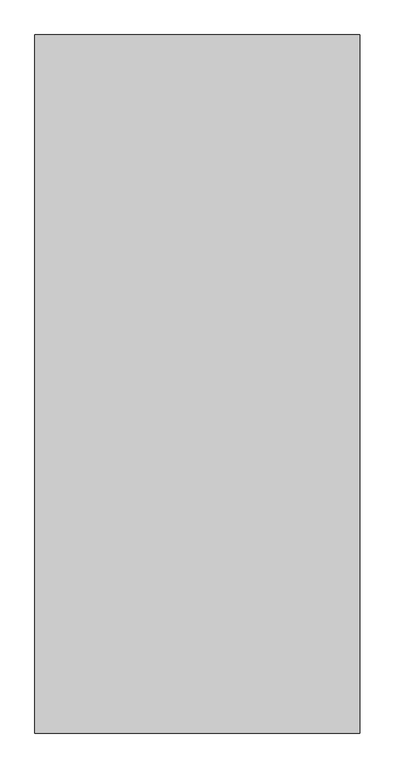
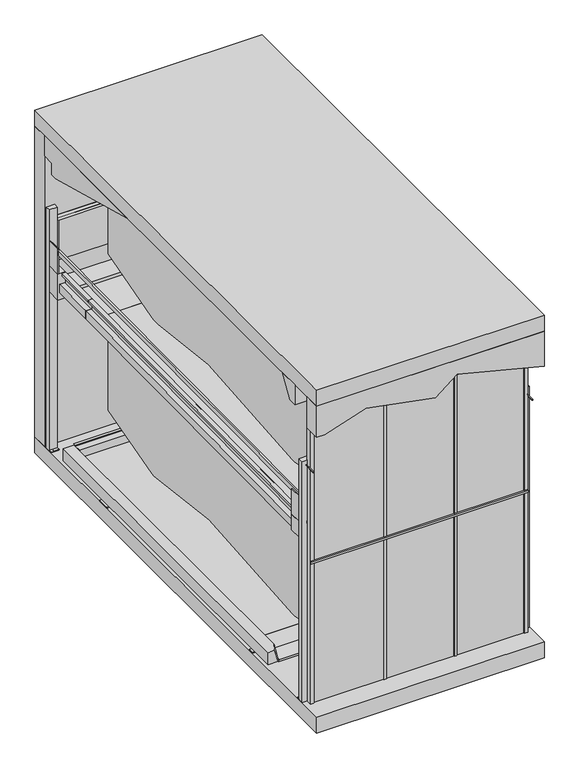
"""IFC4 building model written with IfcOpenShell, lengths in millimetres: proxy geometry, TrendVario 6200+ : TrendVario 6200+."""

import ifcopenshell
import ifcopenshell.guid

model = None  # the IFC model being written
_history = None  # IfcOwnerHistory: only IFC2X3 demands one
_inside = {}  # id of a spatial element -> (the spatial element, [elements in it])
_under = {}  # id of a project, library or spatial element -> (it, [spatial elements below it])
_declared = {}  # id of a project -> (the project, [libraries it declares])
_typed = {}  # id of a type object -> (the type object, [elements of that type])
_made_of = {}  # id of a material, layer set ... -> (it, [elements and type objects made of it])


def new_model(schema):
    """Start an empty IFC model of exactly this schema.

    Asked for "IFC4X3", IfcOpenShell would pick the latest addendum, in which some entities
    have other attributes; the version numbers below select the first issue.
    IFC2X3 requires an IfcOwnerHistory on every rooted entity: one is made here for all.
    """
    global model, _history
    if schema == "IFC4X3":
        model = ifcopenshell.file(schema_version=(4, 3, 0, 0))
    else:
        model = ifcopenshell.file(schema=schema)
    _inside.clear()
    _under.clear()
    _declared.clear()
    _typed.clear()
    _made_of.clear()
    _history = None
    if model.schema == "IFC2X3":
        org = make("IfcOrganization", Name="unknown")
        user = make(
            "IfcPersonAndOrganization",
            ThePerson=make("IfcPerson", FamilyName="unknown"),
            TheOrganization=org,
        )
        app = make(
            "IfcApplication",
            ApplicationDeveloper=org,
            Version="unknown",
            ApplicationFullName="unknown",
            ApplicationIdentifier="unknown",
        )
        _history = make(
            "IfcOwnerHistory",
            OwningUser=user,
            OwningApplication=app,
            ChangeAction="ADDED",
            CreationDate=0,
        )
    return model


def make(cls, **values):
    """One entity of the class cls with the attributes given. An attribute that is None is left unset."""
    return model.create_entity(
        cls, **{name: value for name, value in values.items() if value is not None}
    )


def rooted(cls, **values):
    """An entity with a GlobalId (a new one), such as an element, a storey or a relation."""
    return make(cls, GlobalId=ifcopenshell.guid.new(), OwnerHistory=_history, **values)


def si_unit(unit_type, name, prefix=None):
    """IfcSIUnit, for example si_unit("LENGTHUNIT", "METRE", prefix="MILLI")."""
    return make("IfcSIUnit", UnitType=unit_type, Prefix=prefix, Name=name)


def assignment(units):
    """IfcUnitAssignment: the units of a project."""
    return None if units is None else make("IfcUnitAssignment", Units=units)


def point(xyz):
    """IfcCartesianPoint."""
    return None if xyz is None else make("IfcCartesianPoint", Coordinates=xyz)


def direction(xyz):
    """IfcDirection."""
    return None if xyz is None else make("IfcDirection", DirectionRatios=xyz)


def frame(location, z_axis=None, x_axis=None):
    """IfcAxis2Placement3D, a coordinate frame: its origin and axes. An axis left out is left unset."""
    return make(
        "IfcAxis2Placement3D",
        Location=point(location),
        Axis=direction(z_axis),
        RefDirection=direction(x_axis),
    )


def frame_2d(location, x_axis=None):
    """IfcAxis2Placement2D, a coordinate frame in the plane: its origin and x axis."""
    return make(
        "IfcAxis2Placement2D", Location=point(location), RefDirection=direction(x_axis)
    )


def origin():
    """The frame at (0, 0, 0) with its axes left unset."""
    return frame((0.0, 0.0, 0.0))


def origin_with_axes():
    """The frame at (0, 0, 0) with the z axis (0, 0, 1) and the x axis (1, 0, 0) written out."""
    return frame((0.0, 0.0, 0.0), z_axis=(0.0, 0.0, 1.0), x_axis=(1.0, 0.0, 0.0))


def place(relative_to, where):
    """IfcLocalPlacement: puts the frame where relative to a parent placement (None: the world)."""
    return make(
        "IfcLocalPlacement", PlacementRelTo=relative_to, RelativePlacement=where
    )


def context(
    kind, dimensions, precision=None, world=None, true_north=None, identifier=None
):
    """IfcGeometricRepresentationContext, for example the 3D "Model" context."""
    return make(
        "IfcGeometricRepresentationContext",
        ContextIdentifier=identifier,
        ContextType=kind,
        CoordinateSpaceDimension=dimensions,
        Precision=precision,
        WorldCoordinateSystem=world,
        TrueNorth=true_north,
    )


def project(units=None, contexts=None):
    """IfcProject with its units and contexts."""
    return rooted(
        "IfcProject",
        Name="project",
        RepresentationContexts=contexts,
        UnitsInContext=assignment(units),
    )


def spatial(cls, under=None, at=None, **own):
    """A site, building, storey or space (cls), placed at a placement, below another one or the project."""
    s = rooted(cls, ObjectPlacement=at, **own)
    if under is not None:
        _under.setdefault(under.id(), (under, []))[1].append(s)
    return s


def polyline(points):
    """IfcPolyline through the points."""
    return make("IfcPolyline", Points=[point(p) for p in points])


def circle_curve(where, radius):
    """IfcCircle in the frame where."""
    return make("IfcCircle", Position=where, Radius=radius)


def trimmed(basis, trim1, trim2, sense, master):
    """IfcTrimmedCurve: the piece of a basis curve between two trims."""
    return make(
        "IfcTrimmedCurve",
        BasisCurve=basis,
        Trim1=trim1,
        Trim2=trim2,
        SenseAgreement=sense,
        MasterRepresentation=master,
    )


def segment(curve, same_sense, transition):
    """IfcCompositeCurveSegment."""
    return make(
        "IfcCompositeCurveSegment",
        Transition=transition,
        SameSense=same_sense,
        ParentCurve=curve,
    )


def composite_curve(segments, self_intersect=None):
    """IfcCompositeCurve: segments joined end to end."""
    return make("IfcCompositeCurve", Segments=segments, SelfIntersect=self_intersect)


def outline(outer, holes=None, kind="AREA"):
    """IfcArbitraryClosedProfileDef: a profile drawn as a closed curve; with holes, ...WithVoids."""
    if holes is None:
        return make("IfcArbitraryClosedProfileDef", ProfileType=kind, OuterCurve=outer)
    return make(
        "IfcArbitraryProfileDefWithVoids",
        ProfileType=kind,
        OuterCurve=outer,
        InnerCurves=holes,
    )


def extrude(swept, where, along, depth):
    """IfcExtrudedAreaSolid: the profile swept, set in the frame where, extruded along a direction by depth."""
    return make(
        "IfcExtrudedAreaSolid",
        SweptArea=swept,
        Position=where,
        ExtrudedDirection=direction(along),
        Depth=depth,
    )


def faces_of(points, faces, orient=None, outer=None):
    """IfcFace entities. A face is a list of loops; a loop is a list of indices into points, from 0.

    orient and outer hold one flag for each loop. By default every Orientation is true, the
    first loop of a face is its IfcFaceOuterBound and the others are IfcFaceBound.
    """
    made = []
    for i, loops in enumerate(faces):
        bounds = []
        for j, loop in enumerate(loops):
            is_outer = j == 0 if outer is None else outer[i][j]
            bounds.append(
                make(
                    "IfcFaceOuterBound" if is_outer else "IfcFaceBound",
                    Bound=make("IfcPolyLoop", Polygon=[points[k] for k in loop]),
                    Orientation=True if orient is None else orient[i][j],
                )
            )
        made.append(make("IfcFace", Bounds=bounds))
    return made


def faceted_brep(points, faces, orient=None, outer=None, voids=None):
    """IfcFacetedBrep: a solid bounded by flat faces; with voids (closed shells), ...WithVoids."""
    shared = [point(p) for p in points]
    hull = make("IfcClosedShell", CfsFaces=faces_of(shared, faces, orient, outer))
    if voids is None:
        return make("IfcFacetedBrep", Outer=hull)
    return make(
        "IfcFacetedBrepWithVoids",
        Outer=hull,
        Voids=[
            make(cls, CfsFaces=faces_of(shared, fs, o, b)) for cls, fs, o, b in voids
        ],
    )


def shape(context_of_items, identifier, shape_type, items):
    """IfcShapeRepresentation: the items that make up one representation, for example the "Body"."""
    return make(
        "IfcShapeRepresentation",
        ContextOfItems=context_of_items,
        RepresentationIdentifier=identifier,
        RepresentationType=shape_type,
        Items=items,
    )


def source(mapping_origin, context_of_items, identifier, shape_type, items):
    """IfcRepresentationMap: a shape defined once, which mapped items show again and again."""
    return make(
        "IfcRepresentationMap",
        MappingOrigin=mapping_origin,
        MappedRepresentation=shape(context_of_items, identifier, shape_type, items),
    )


def transform(
    local_origin,
    x_axis=None,
    y_axis=None,
    z_axis=None,
    scale=None,
    scale2=None,
    scale3=None,
    uniform=True,
):
    """IfcCartesianTransformationOperator3D, or its non-uniform kind. x_axis, y_axis, z_axis: its Axis1, 2, 3."""
    if uniform:
        return make(
            "IfcCartesianTransformationOperator3D",
            Axis1=direction(x_axis),
            Axis2=direction(y_axis),
            LocalOrigin=point(local_origin),
            Scale=scale,
            Axis3=direction(z_axis),
        )
    return make(
        "IfcCartesianTransformationOperator3DnonUniform",
        Axis1=direction(x_axis),
        Axis2=direction(y_axis),
        LocalOrigin=point(local_origin),
        Scale=scale,
        Axis3=direction(z_axis),
        Scale2=scale2,
        Scale3=scale3,
    )


def mapped(mapping_source, mapping_target):
    """IfcMappedItem: shows the shape of a source again, moved by a transform."""
    return make(
        "IfcMappedItem", MappingSource=mapping_source, MappingTarget=mapping_target
    )


def made_of(thing, what):
    """Note that an element or type object is made of a material, layer set ...; save() writes the relation."""
    if what is not None:
        _made_of.setdefault(what.id(), (what, []))[1].append(thing)
    return thing


def element(
    cls,
    number,
    at=None,
    inside=None,
    cuts=None,
    type_object=None,
    material=None,
    context=None,
    identifier="Body",
    shape_type=None,
    held_by="IfcProductDefinitionShape",
    body=None,
    shapes=None,
    **own,
):
    """One element of the class cls, such as IfcWall. Its Tag is "e" and its number.

    at: its placement. inside: the storey or other place that contains it. cuts: it is an
    opening in that element (IfcRelVoidsElement). A single representation is given by context,
    identifier, shape_type and body (its items); several are given by shapes. held_by: the class
    of the entity that holds the representations. save() writes the other relations.
    """
    e = rooted(cls, Tag="e%d" % number, ObjectPlacement=at, **own)
    if body is not None:
        shapes = [shape(context, identifier, shape_type, body)]
    if shapes is not None:
        e.Representation = make(held_by, Representations=shapes)
    if inside is not None:
        _inside.setdefault(inside.id(), (inside, []))[1].append(e)
    if cuts is not None:
        rooted(
            "IfcRelVoidsElement", RelatingBuildingElement=cuts, RelatedOpeningElement=e
        )
    if type_object is not None:
        _typed.setdefault(type_object.id(), (type_object, []))[1].append(e)
    return made_of(e, material)


def aggregate(whole, parts):
    """IfcRelAggregates: a whole, such as a stair, and the parts it consists of."""
    return rooted("IfcRelAggregates", RelatingObject=whole, RelatedObjects=parts)


def save(model, path):
    """Write the relations noted so far, then the file.

    IfcRelAggregates (storeys below a building ...), IfcRelContainedInSpatialStructure (elements
    in a storey), IfcRelDefinesByType, IfcRelAssociatesMaterial and IfcRelDeclares: one each for
    every whole, place, type object, material and project.
    """
    for whole, parts in _under.values():
        aggregate(whole, parts)
    for where, things in _inside.values():
        rooted(
            "IfcRelContainedInSpatialStructure",
            RelatedElements=things,
            RelatingStructure=where,
        )
    for kind, things in _typed.values():
        rooted("IfcRelDefinesByType", RelatedObjects=things, RelatingType=kind)
    for what, things in _made_of.values():
        rooted("IfcRelAssociatesMaterial", RelatedObjects=things, RelatingMaterial=what)
    for by, libraries in _declared.values():
        rooted("IfcRelDeclares", RelatingContext=by, RelatedDefinitions=libraries)
    model.write(path)


def plane_surface(at):
    """IfcPlane: the flat surface through the origin of the frame at, square to its z axis."""
    return make("IfcPlane", Position=at)


def cylinder_surface(at, radius):
    """IfcCylindricalSurface: all points at the distance radius from the z axis of the frame at."""
    return make("IfcCylindricalSurface", Position=at, Radius=radius)


def spline_surface(u_degree, v_degree, points, u_multiplicities, v_multiplicities, u_knots, v_knots, weights=None):
    """IfcBSplineSurfaceWithKnots; with weights, IfcRationalBSplineSurfaceWithKnots. points: one row for each step in u."""
    own = dict(
        UDegree=u_degree,
        VDegree=v_degree,
        ControlPointsList=[[point(p) for p in row] for row in points],
        SurfaceForm="UNSPECIFIED",
        UClosed=False,
        VClosed=False,
        SelfIntersect=False,
        UMultiplicities=u_multiplicities,
        VMultiplicities=v_multiplicities,
        UKnots=u_knots,
        VKnots=v_knots,
        KnotSpec="UNSPECIFIED",
    )
    if weights is None:
        return make("IfcBSplineSurfaceWithKnots", **own)
    return make("IfcRationalBSplineSurfaceWithKnots", WeightsData=weights, **own)


def advanced_brep(points, edges, surfaces, faces):
    """IfcAdvancedBrep: a solid bounded by faces that lie on surfaces and meet in shared edges.

    An edge is (start, end): straight between two places in points (the first is 0);
    or (start, end, curve); or (start, end, curve, False) where it runs against its curve.
    A face is (place in surfaces, loops), or (place, loops, False) where it looks against
    its surface's normal. A loop lists edges by number (the first is 1), with a minus sign
    where the edge is run from its end to its start. The first loop is the outer one.
    """
    corners = [point(p) for p in points]
    vertices = [make("IfcVertexPoint", VertexGeometry=c) for c in corners]
    made = []
    for start, end, *more in edges:
        made.append(
            make(
                "IfcEdgeCurve",
                EdgeStart=vertices[start],
                EdgeEnd=vertices[end],
                EdgeGeometry=more[0] if more else make("IfcPolyline", Points=[corners[start], corners[end]]),
                SameSense=more[1] if len(more) > 1 else True,
            )
        )
    hull = []
    for where, loops, *sense in faces:
        bounds = []
        for j, loop in enumerate(loops):
            ring = [make("IfcOrientedEdge", EdgeElement=made[abs(k) - 1], Orientation=k > 0) for k in loop]
            bounds.append(
                make(
                    "IfcFaceOuterBound" if j == 0 else "IfcFaceBound",
                    Bound=make("IfcEdgeLoop", EdgeList=ring),
                    Orientation=True,
                )
            )
        hull.append(make("IfcAdvancedFace", Bounds=bounds, FaceSurface=surfaces[where], SameSense=sense[0] if sense else True))
    return make("IfcAdvancedBrep", Outer=make("IfcClosedShell", CfsFaces=hull))


def generic_models_b6fc71eb(model_context):
    return source(origin(), model_context, "Body", "SolidModel", [
        extrude(outline(composite_curve([segment(trimmed(circle_curve(frame_2d((2650.0, 5300.0602659)), 6.0), [point((2650.0, 5294.0602659))], [point((2650.0, 5306.0602659))], False, "CARTESIAN"), True, "CONTINUOUS"), segment(trimmed(circle_curve(frame_2d((2650.0, 5300.0602659)), 6.0), [point((2650.0, 5306.0602659))], [point((2650.0, 5294.0602659))], False, "CARTESIAN"), True, "CONTINUOUS")], self_intersect=False)), frame((0.0, 0.0, -150.0), z_axis=(0.0, 0.0, 1.0), x_axis=(1.0, 0.0, 0.0)), (0.0, 0.0, 1.0), 150.0),
        extrude(outline(composite_curve([segment(trimmed(circle_curve(frame_2d((50.0, 5300.0602653)), 6.0), [point((44.0, 5300.0602653))], [point((56.0, 5300.0602653))], False, "CARTESIAN"), True, "CONTINUOUS"), segment(trimmed(circle_curve(frame_2d((50.0, 5300.0602653)), 6.0), [point((56.0, 5300.0602653))], [point((44.0, 5300.0602653))], False, "CARTESIAN"), True, "CONTINUOUS")], self_intersect=False)), frame((0.0, 0.0, -150.0), z_axis=(0.0, 0.0, 1.0), x_axis=(1.0, 0.0, 0.0)), (0.0, 0.0, 1.0), 150.0),
        extrude(outline(composite_curve([segment(trimmed(circle_curve(frame_2d((2650.0, 170.0)), 6.0), [point((2650.0, 164.0))], [point((2650.0, 176.0))], False, "CARTESIAN"), True, "CONTINUOUS"), segment(trimmed(circle_curve(frame_2d((2650.0, 170.0)), 6.0), [point((2650.0, 176.0))], [point((2650.0, 164.0))], False, "CARTESIAN"), True, "CONTINUOUS")], self_intersect=False)), frame((0.0, 0.0, -150.0), z_axis=(0.0, 0.0, 1.0), x_axis=(1.0, 0.0, 0.0)), (0.0, 0.0, 1.0), 150.0),
        extrude(outline(composite_curve([segment(trimmed(circle_curve(frame_2d((50.0, 170.0)), 6.0), [point((44.0, 170.0))], [point((56.0, 170.0))], False, "CARTESIAN"), True, "CONTINUOUS"), segment(trimmed(circle_curve(frame_2d((50.0, 170.0)), 6.0), [point((56.0, 170.0))], [point((44.0, 170.0))], False, "CARTESIAN"), True, "CONTINUOUS")], self_intersect=False)), frame((0.0, 0.0, -150.0), z_axis=(0.0, 0.0, 1.0), x_axis=(1.0, 0.0, 0.0)), (0.0, 0.0, 1.0), 150.0),
        extrude(outline(composite_curve([segment(trimmed(circle_curve(frame_2d((2965.0, 2650.0)), 6.0), [point((2965.0, 2644.0))], [point((2965.0, 2656.0))], False, "CARTESIAN"), True, "CONTINUOUS"), segment(trimmed(circle_curve(frame_2d((2965.0, 2650.0)), 6.0), [point((2965.0, 2656.0))], [point((2965.0, 2644.0))], False, "CARTESIAN"), True, "CONTINUOUS")], self_intersect=False)), frame((0.0, -50.0, 0.0), z_axis=(0.0, 1.0, 0.0), x_axis=(0.0, 0.0, 1.0)), (0.0, 0.0, 1.0), 150.0),
        extrude(outline(composite_curve([segment(trimmed(circle_curve(frame_2d((2965.0, 50.0)), 6.0), [point((2965.0, 44.0))], [point((2965.0, 56.0))], False, "CARTESIAN"), True, "CONTINUOUS"), segment(trimmed(circle_curve(frame_2d((2965.0, 50.0)), 6.0), [point((2965.0, 56.0))], [point((2965.0, 44.0))], False, "CARTESIAN"), True, "CONTINUOUS")], self_intersect=False)), frame((0.0, -50.0, 0.0), z_axis=(0.0, 1.0, 0.0), x_axis=(0.0, 0.0, 1.0)), (0.0, 0.0, 1.0), 150.0),
        extrude(outline(composite_curve([segment(trimmed(circle_curve(frame_2d((2965.0, 50.0)), 6.0), [point((2965.0, 44.0))], [point((2965.0, 56.0))], False, "CARTESIAN"), True, "CONTINUOUS"), segment(trimmed(circle_curve(frame_2d((2965.0, 50.0)), 6.0), [point((2965.0, 56.0))], [point((2965.0, 44.0))], False, "CARTESIAN"), True, "CONTINUOUS")], self_intersect=False)), frame((0.0, 5369.5816653, 0.0), z_axis=(0.0, 1.0, 0.0), x_axis=(0.0, 0.0, 1.0)), (0.0, 0.0, 1.0), 150.0),
        extrude(outline(composite_curve([segment(trimmed(circle_curve(frame_2d((2965.0, 2650.0)), 6.0), [point((2965.0, 2644.0))], [point((2965.0, 2656.0))], False, "CARTESIAN"), True, "CONTINUOUS"), segment(trimmed(circle_curve(frame_2d((2965.0, 2650.0)), 6.0), [point((2965.0, 2656.0))], [point((2965.0, 2644.0))], False, "CARTESIAN"), True, "CONTINUOUS")], self_intersect=False)), frame((0.0, 5369.6045102, 0.0), z_axis=(0.0, 1.0, 0.0), x_axis=(0.0, 0.0, 1.0)), (0.0, 0.0, 1.0), 150.0),
        extrude(outline(polyline([(0.0, -60.0), (0.0, 0.0), (4430.0, 0.0), (4430.0, -60.0), (0.0, -60.0)])), frame((2611.0, 171.9869847, 2038.264563), z_axis=(0.0, -0.008726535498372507, 0.9999619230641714), x_axis=(0.0, 0.9999619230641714, 0.008726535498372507)), (0.0, 0.0, 1.0), 100.0),
        extrude(outline(polyline([(0.0, -19.0), (0.0, 0.0), (4440.0, 0.0), (4440.0, -19.0), (0.0, -19.0)])), frame((2663.0, 167.9116926, 2505.246781), z_axis=(0.0, -0.008726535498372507, 0.9999619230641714), x_axis=(0.0, 0.9999619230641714, 0.008726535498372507)), (0.0, 0.0, 1.0), 56.0),
        faceted_brep([(2600.0, 4599.8286538, 2304.9144337), (2643.0, 4599.8286538, 2304.9144337), (2643.0, 4600.0904499, 2274.915576), (2640.0, 4600.0904499, 2274.915576), (2640.0, 4599.8548334, 2301.9145479), (2603.0, 4599.8548334, 2301.9145479), (2603.0, 4602.6211451, 1984.9266183), (2548.0, 4602.6211451, 1984.9266183), (2548.0, 4602.210998, 2031.9248287), (2511.0, 4602.210998, 2031.9248287), (2511.0, 4602.1848184, 2034.9247145), (2551.0, 4602.1848184, 2034.9247145), (2551.0, 4602.5949655, 1987.9265041), (2600.0, 4602.5949655, 1987.9265041), (2603.0, 102.7924914, 1945.6572086), (2603.0, 100.0261796, 2262.6451382), (2640.0, 100.0261796, 2262.6451382), (2640.0, 100.2617961, 2235.6461663), (2643.0, 100.2617961, 2235.6461663), (2643.0, 100.0, 2265.645024), (2600.0, 100.0, 2265.645024), (2600.0, 102.7924914, 1945.6572086), (2600.0, 202.7886837, 1946.5298621), (2548.0, 202.7886837, 1946.5298621), (2548.0, 202.3785365, 1993.5280725), (2511.0, 202.3785365, 1993.5280725), (2511.0, 202.3523569, 1996.5279583), (2551.0, 202.3523569, 1996.5279583), (2551.0, 202.7625041, 1949.5297479), (2600.0, 202.7625041, 1949.5297479)], [[[0, 1, 2, 3, 4, 5, 6, 7, 8, 9, 10, 11, 12, 13]], [[14, 15, 16, 17, 18, 19, 20, 21]], [[1, 0, 20, 19]], [[2, 1, 19, 18]], [[3, 2, 18, 17]], [[4, 3, 17, 16]], [[5, 4, 16, 15]], [[6, 5, 15, 14]], [[7, 6, 14, 21, 22, 23]], [[8, 7, 23, 24]], [[9, 8, 24, 25]], [[10, 9, 25, 26]], [[11, 10, 26, 27]], [[12, 11, 27, 28]], [[13, 12, 28, 29]], [[0, 13, 29, 22, 21, 20]], [[22, 29, 28, 27, 26, 25, 24, 23]]]),
        extrude(outline(polyline([(2133.867435, 0.0), (2133.867435, -1000.0), (-1962.132565, -1000.0), (-1962.132565, 0.0), (2133.867435, 0.0)])), frame((1600.0, 2468.3986345, 2016.3034445), z_axis=(0.0, -0.008726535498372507, 0.9999619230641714), x_axis=(0.0, 0.9999619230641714, 0.008726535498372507)), (0.0, 0.0, 1.0), 8.0),
        extrude(outline(polyline([(0.0, -1500.0), (0.0, 0.0), (769.9999999, 0.0), (769.9999999, -1500.0), (0.0, -1500.0)])), frame((100.0, 4602.1898877, 2034.9247587), z_axis=(0.0, -0.008726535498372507, 0.9999619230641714), x_axis=(0.0, 0.9999619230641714, 0.008726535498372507)), (0.0, 0.0, 1.0), 8.0),
        extrude(outline(polyline([(5133.7158509, 2091.5652956), (5371.7067886, 2093.642211), (5372.0907561, 2049.6438864), (5369.0908704, 2049.6177068), (5368.7330824, 2090.6161457), (5136.7419163, 2088.5915894), (5137.0997042, 2047.5931506), (5134.0998185, 2047.566971), (5133.7158509, 2091.5652956)])), frame((100.0, 0.0, 0.0), z_axis=(1.0, 0.0, 0.0), x_axis=(0.0, 1.0, 0.0)), (0.0, 0.0, 1.0), 1500.0),
        extrude(outline(polyline([(319.9999999, 0.0), (319.9999999, -43.0), (289.9999999, -43.0), (289.9999999, -40.0), (317.0, -40.0), (317.0, -3.0), (0.0, -3.0), (0.0, 52.0), (46.9999999, 52.0), (46.9999999, 89.0), (49.9999999, 89.0), (49.9999999, 49.0), (2.9999999, 49.0), (2.9999999, 0.0), (319.9999999, 0.0)])), frame((100.0, 4602.6262144, 1984.9266626), z_axis=(0.0, 0.9999619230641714, 0.008726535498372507), x_axis=(0.0, -0.008726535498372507, 0.9999619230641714)), (0.0, 0.0, 1.0), 770.0),
        extrude(outline(polyline([(200.0, 8.0), (200.0, 0.0), (100.0, 0.0), (100.0, 3025.0), (160.0, 3025.0), (160.0, 8.0), (200.0, 8.0)])), frame((0.0, 0.0, 0.0), z_axis=(1.0, 0.0, 0.0), x_axis=(0.0, 1.0, 0.0)), (0.0, 0.0, 1.0), 100.0),
        faceted_brep([(0.0, 5249.9885779, 3650.0), (2701.0, 5249.9885779, 3650.0), (2701.0, 5249.9885779, 3500.0), (0.0, 5249.9885779, 3500.0), (0.0, 5399.9657348, 3650.0), (2701.0, 5399.9657348, 3650.0), (2701.0, 5167.6820669, 3500.0), (2701.0, 3699.9673137, 3900.0057953), (0.0, 3699.9885779, 3900.0), (0.0, 5167.6820669, 3500.0), (2701.0, 5399.9657348, 3900.0), (0.0, 5399.9657348, 3900.0)], [[[0, 1, 2, 3]], [[1, 0, 4, 5]], [[6, 7, 8, 9]], [[10, 7, 6, 2, 1, 5]], [[8, 11, 4, 0, 3, 9]], [[11, 10, 5, 4]], [[7, 10, 11, 8]], [[2, 6, 9, 3]]]),
        extrude(outline(polyline([(3511.8273555, 0.0), (3511.8273555, 90.0080034), (3672.5161926, 584.5573919), (3511.8273555, 1411.229794), (3719.8801857, 1665.5456754), (3461.7124269, 2701.0), (3900.0, 2701.0), (3900.0, 0.0), (3511.8273555, 0.0)])), frame((0.0, -200.0, 0.0), z_axis=(0.0, 1.0, 0.0), x_axis=(0.0, 0.0, 1.0)), (0.0, 0.0, 1.0), 200.0),
        extrude(outline(polyline([(100.0, 45.0), (100.0, 55.0), (2600.0, 55.0), (2600.0, 45.0), (100.0, 45.0)])), origin_with_axes(), (0.0, 0.0, 1.0), 3526.0),
        extrude(outline(polyline([(1798.6666667, 44.0), (1798.6666667, 35.0), (1768.6666667, 35.0), (1768.6666667, 44.0), (1798.6666667, 44.0)])), origin_with_axes(), (0.0, 0.0, 1.0), 3526.0),
        extrude(outline(polyline([(964.3333333, 44.0), (964.3333333, 35.0), (934.3333333, 35.0), (934.3333333, 44.0), (964.3333333, 44.0)])), origin_with_axes(), (0.0, 0.0, 1.0), 3526.0),
        extrude(outline(polyline([(0.0, -19.0), (0.0, 0.0), (5147.1058324, 0.0), (5147.1058324, -19.0), (0.0, -19.0)])), frame((37.0, 5302.7546227, 2550.0578764), z_axis=(0.0, -0.008726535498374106, 0.9999619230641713), x_axis=(0.0, -0.9999619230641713, -0.008726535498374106)), (0.0, 0.0, 1.0), 56.0),
        extrude(outline(polyline([(18.0, 5142.5968952), (7.0, 5142.5968952), (7.0, 5312.5968952), (18.0, 5312.5968952), (18.0, 5142.5968952)])), frame((0.0, 0.0, 2319.0), z_axis=(0.0, 0.0, 1.0), x_axis=(1.0, 0.0, 0.0)), (0.0, 0.0, 1.0), 310.0),
        extrude(outline(polyline([(2682.0, 5142.0602659), (2682.0, 5312.0602659), (2693.0, 5312.0602659), (2693.0, 5142.0602659), (2682.0, 5142.0602659)])), frame((0.0, 0.0, 2319.0), z_axis=(0.0, 0.0, 1.0), x_axis=(1.0, 0.0, 0.0)), (0.0, 0.0, 1.0), 310.0),
        advanced_brep(
        [(2678.3930268, 838.0907234, 21.8284597), (2678.3930268, 838.0907234, 173.2797049), (2600.0, 838.0907234, 173.2797049), (2560.0, 838.0907234, 21.8284597), (2678.3930268, 5057.0907234, 21.8284597), (2550.0, 5057.0907234, 21.8284597), (2550.0, 5057.0907234, 173.2797049), (2678.3930268, 5057.0907234, 173.2797049), (2550.0, 938.0907234, 173.2797049), (2550.0, 848.0907234, 21.8284597)],
        [
            (0, 1),
            (1, 2),
            (2, 3),
            (3, 0),
            (4, 5),
            (5, 6),
            (6, 7),
            (7, 4),
            (0, 4),
            (7, 1),
            (6, 8),
            (8, 2),
            (5, 9),
            (9, 8),
            (3, 9),
        ],
        [
            plane_surface(frame((2550.0, 838.0907234, 0.0), z_axis=(0.0, -1.0, 0.0), x_axis=(0.0, 0.0, 1.0))),
            plane_surface(frame((2550.0, 5057.0907234, 0.0), z_axis=(0.0, 1.0, 0.0), x_axis=(0.0, 0.0, 1.0))),
            plane_surface(frame((2678.3930268, 838.0907234, 21.8284597), z_axis=(1.0, 0.0, 0.0), x_axis=(0.0, 1.0, 0.0))),
            plane_surface(frame((2678.3930268, 838.0907234, 173.2797049), z_axis=(0.0, 0.0, 1.0), x_axis=(0.0, 1.0, 0.0))),
            plane_surface(frame((2550.0, 838.0907234, 173.2797049), z_axis=(-1.0, 0.0, 0.0), x_axis=(0.0, 1.0, 0.0))),
            plane_surface(frame((2550.0, 838.0907234, 21.8284597), z_axis=(0.0, 0.0, -1.0), x_axis=(0.0, 1.0, 0.0))),
            spline_surface(1, 1, [[(2550.0, 938.0907234, 173.2797049), (2600.0, 838.0907234, 173.2797049)], [(2550.0, 848.0907234, 21.8284597), (2560.0, 838.0907234, 21.8284597)]], [2, 2], [2, 2], [0.0, 1.0], [0.0, 1.0]),
        ],
        [
            (0, [[1, 2, 3, 4]]),
            (1, [[5, 6, 7, 8]]),
            (2, [[-1, 9, -8, 10]]),
            (3, [[-7, 11, 12, -2, -10]]),
            (4, [[-6, 13, 14, -11]]),
            (5, [[-5, -9, -4, 15, -13]]),
            (6, [[-3, -12, -14, -15]]),
        ],
    ),
        advanced_brep(
        [(22.4384321, 838.0907234, 173.2797049), (22.4384321, 838.0907234, 20.8412855), (140.0, 838.0907234, 20.8412855), (100.0, 838.0907234, 173.2797049), (150.0, 5057.0907234, 20.8412855), (22.4384321, 5057.0907234, 20.8412855), (22.4384321, 5057.0907234, 173.2797049), (150.0, 5057.0907234, 173.2797049), (150.0, 938.0907234, 173.2797049), (150.0, 848.0907234, 20.8412855)],
        [
            (0, 1),
            (1, 2),
            (2, 3),
            (3, 0),
            (4, 5),
            (5, 6),
            (6, 7),
            (7, 4),
            (7, 8),
            (8, 9),
            (9, 4),
            (6, 0),
            (3, 8),
            (5, 1),
            (9, 2),
        ],
        [
            plane_surface(frame((150.0, 838.0907234, 20.8412855), z_axis=(0.0, -1.0, 0.0), x_axis=(0.0, 0.0, 1.0))),
            plane_surface(frame((150.0, 5057.0907234, 20.8412855), z_axis=(0.0, 1.0, 0.0), x_axis=(0.0, 0.0, -1.0))),
            plane_surface(frame((150.0, 838.0907234, 20.8412855), z_axis=(1.0, 0.0, 0.0), x_axis=(0.0, 1.0, 0.0))),
            plane_surface(frame((150.0, 838.0907234, 173.2797049), z_axis=(0.0, 0.0, 1.0), x_axis=(0.0, 1.0, 0.0))),
            plane_surface(frame((22.4384321, 838.0907234, 173.2797049), z_axis=(-1.0, 0.0, 0.0), x_axis=(0.0, 1.0, 0.0))),
            plane_surface(frame((22.4384321, 838.0907234, 20.8412855), z_axis=(0.0, 0.0, -1.0), x_axis=(0.0, 1.0, 0.0))),
            spline_surface(1, 1, [[(150.0, 848.0907234, 20.8412855), (140.0, 838.0907234, 20.8412855)], [(150.0, 938.0907234, 173.2797049), (100.0, 838.0907234, 173.2797049)]], [2, 2], [2, 2], [0.0, 1.0], [0.0, 1.0]),
        ],
        [
            (0, [[1, 2, 3, 4]]),
            (1, [[5, 6, 7, 8]]),
            (2, [[-8, 9, 10, 11]]),
            (3, [[-7, 12, -4, 13, -9]]),
            (4, [[-1, -12, -6, 14]]),
            (5, [[-5, -11, 15, -2, -14]]),
            (6, [[-3, -15, -10, -13]]),
        ],
    ),
        extrude(outline(polyline([(5369.6045102, 0.0), (5270.0602659, 0.0), (5270.0602659, 8.0), (5310.0602659, 8.0), (5310.0602659, 3025.0), (5369.6045102, 3025.0), (5369.6045102, 0.0)])), frame((2600.0, 0.0, 0.0), z_axis=(1.0, 0.0, 0.0), x_axis=(0.0, 1.0, 0.0)), (0.0, 0.0, 1.0), 100.0),
        extrude(outline(polyline([(5269.5968952, 0.0), (5269.5968952, 8.0), (5309.5968952, 8.0), (5309.5968952, 3025.0), (5369.5968952, 3025.0), (5369.5968952, 0.0), (5269.5968952, 0.0)])), frame((0.0, 0.0, 0.0), z_axis=(1.0, 0.0, 0.0), x_axis=(0.0, 1.0, 0.0)), (0.0, 0.0, 1.0), 100.0),
        advanced_brep(
        [(650.0, 5220.0526533, 335.5997321), (650.0, 4313.3699728, 92.6548401), (650.0, 4224.7221662, 85.0351129), (650.0, 3145.3807126, 219.0), (650.0, 1424.180165, 85.3914386), (650.0, 1340.4923675, 90.5100035), (650.0, 220.4923675, 349.0823776), (650.0, 220.4923675, 1334.0), (650.0, 520.4923675, 1884.0), (650.0, 3620.0831131, 1884.0000002), (650.0, 5220.0526556, 1434.0085664), (2550.0, 220.4923675, 349.0823776), (2550.0, 1340.4923675, 90.5100035), (2550.0, 1424.180165, 85.3914386), (2550.0, 3145.3807126, 219.0), (2550.0, 4224.7221662, 85.0351129), (2550.0, 4313.3699728, 92.6548401), (2550.0, 5220.0526533, 335.5997321), (2550.0, 5220.0526556, 1434.0085664), (2550.0, 3620.0831131, 1884.0000002), (2550.0, 520.4923675, 1884.0), (2550.0, 220.4923675, 1334.0)],
        [
            (0, 1),
            (1, 2, circle_curve(frame((650.0, 4247.6299354, 338.0), z_axis=(-1.0, 0.0, 0.0), x_axis=(0.0, 1.0, 0.0)), 254.0)),
            (2, 3),
            (3, 4),
            (4, 5, circle_curve(frame((650.0, 1397.6299354, 338.0), z_axis=(-1.0, 0.0, 0.0), x_axis=(0.0, 1.0, 0.0)), 254.0)),
            (5, 6),
            (6, 7),
            (7, 8),
            (8, 9),
            (9, 10),
            (10, 0),
            (11, 12),
            (12, 13, circle_curve(frame((2550.0, 1397.6299354, 338.0), z_axis=(1.0, 0.0, 0.0), x_axis=(0.0, 1.0, 0.0)), 254.0)),
            (13, 14),
            (14, 15),
            (15, 16, circle_curve(frame((2550.0, 4247.6299354, 338.0), z_axis=(1.0, 0.0, 0.0), x_axis=(0.0, 1.0, 0.0)), 254.0)),
            (16, 17),
            (17, 18),
            (18, 19),
            (19, 20),
            (20, 21),
            (21, 11),
            (17, 0),
            (10, 18),
            (16, 1),
            (15, 2),
            (14, 3),
            (13, 4),
            (12, 5),
            (11, 6),
            (21, 7),
            (9, 19),
            (8, 20),
        ],
        [
            plane_surface(frame((650.0, 220.4923675, 0.0), z_axis=(-1.0, 0.0, 0.0), x_axis=(0.0, 0.0, 1.0))),
            plane_surface(frame((2550.0, 220.4923675, 0.0), z_axis=(1.0, 0.0, 0.0), x_axis=(0.0, 0.0, 1.0))),
            plane_surface(frame((650.0, 5220.0526533, 1105.8846371), z_axis=(0.0, 1.0, 0.0), x_axis=(1.0, 0.0, 0.0))),
            plane_surface(frame((650.0, 5220.0526533, 335.5997321), z_axis=(0.0, 0.25881904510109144, -0.9659258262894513), x_axis=(1.0, 0.0, 0.0))),
            cylinder_surface(frame((650.0, 4247.6299354, 338.0), z_axis=(-1.0, 0.0, 0.0), x_axis=(0.0, 1.0, 0.0)), 254.0),
            plane_surface(frame((650.0, 4224.7221662, 85.0351129), z_axis=(0.0, -0.12317213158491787, -0.992385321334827), x_axis=(1.0, 0.0, 0.0))),
            plane_surface(frame((650.0, 3145.3807126, 219.0), z_axis=(0.0, 0.07739239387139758, -0.9970007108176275), x_axis=(1.0, 0.0, 0.0))),
            cylinder_surface(frame((650.0, 1397.6299354, 338.0), z_axis=(-1.0, 0.0, 0.0), x_axis=(0.0, 1.0, 0.0)), 254.0),
            plane_surface(frame((650.0, 1340.4923675, 90.5100035), z_axis=(0.0, -0.22495105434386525, -0.9743700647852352), x_axis=(1.0, 0.0, 0.0))),
            plane_surface(frame((650.0, 220.4923675, 349.0823776), z_axis=(0.0, -1.0, 0.0), x_axis=(1.0, 0.0, 0.0))),
            plane_surface(frame((650.0, 3620.0831131, 1884.0000002), z_axis=(0.0, 0.27074557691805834, 0.9626509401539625), x_axis=(1.0, 0.0, 0.0))),
            plane_surface(frame((650.0, 620.4885622, 1884.0000002), z_axis=(0.0, 0.0, 1.0), x_axis=(1.0, 0.0, 0.0))),
            plane_surface(frame((650.0, 220.4923675, 1334.0), z_axis=(0.0, -0.8778955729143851, 0.478852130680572), x_axis=(1.0, 0.0, 0.0))),
        ],
        [
            (0, [[1, 2, 3, 4, 5, 6, 7, 8, 9, 10, 11]]),
            (1, [[12, 13, 14, 15, 16, 17, 18, 19, 20, 21, 22]]),
            (2, [[23, -11, 24, -18]]),
            (3, [[-1, -23, -17, 25]]),
            (4, [[-2, -25, -16, 26]]),
            (5, [[-3, -26, -15, 27]]),
            (6, [[-4, -27, -14, 28]]),
            (7, [[-5, -28, -13, 29]]),
            (8, [[-6, -29, -12, 30]]),
            (9, [[-7, -30, -22, 31]]),
            (10, [[-10, 32, -19, -24]]),
            (11, [[-20, -32, -9, 33]]),
            (12, [[-8, -31, -21, -33]]),
        ],
    ),
        advanced_brep(
        [(650.0080034, 219.0783305, 2530.0), (650.0080034, 212.7549246, 3254.5905482), (650.0080034, 507.9448535, 3807.0791047), (650.0080034, 614.5742843, 3808.0096456), (650.0080034, 616.0660458, 3810.8016825), (650.0080034, 3620.0751529, 3837.0172728), (650.0080034, 5220.0526533, 3400.9650555), (650.0080034, 5220.0602659, 2299.8475577), (650.0080034, 4315.7898833, 2049.0711861), (650.0080034, 4227.211946, 2040.6781608), (650.0080034, 3146.7425411, 2165.2190354), (650.0080034, 1426.7734714, 2016.5954437), (650.0080034, 1343.0441931, 2020.9835093), (650.0080034, 226.8699728, 2268.4333765), (650.0080034, 224.5873155, 2530.0), (2550.0080034, 507.9448535, 3807.0791047), (2550.0080034, 212.7549245, 3254.5905482), (2550.0080034, 219.0783305, 2530.0), (2550.0080034, 224.5873155, 2530.0), (2550.0080034, 226.8699728, 2268.4333765), (2550.0080034, 1343.0441931, 2020.9835093), (2550.0080034, 1426.7734714, 2016.5954437), (2550.0080034, 3146.7425411, 2165.2190354), (2550.0080034, 4227.211946, 2040.6781608), (2550.0080034, 4315.7898833, 2049.0711861), (2550.0080034, 5220.0602659, 2299.8475577), (2550.0080034, 5220.0526533, 3400.9650555), (2550.0080034, 3620.0751529, 3837.0172728), (2550.0080034, 616.0660458, 3810.8016825), (2550.0080034, 614.5742843, 3808.0096456)],
        [
            (0, 1),
            (1, 2),
            (2, 3),
            (3, 4),
            (4, 5),
            (5, 6),
            (6, 7),
            (7, 8),
            (8, 9, circle_curve(frame((650.0080034, 4247.9113358, 2293.8333213), z_axis=(-1.0, 6.846874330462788e-12, 0.0), x_axis=(6.846340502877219e-12, 0.9999619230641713, 0.008726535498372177)), 254.0)),
            (9, 10),
            (10, 11),
            (11, 12, circle_curve(frame((650.0080034, 1398.0198551, 2268.9626951), z_axis=(-1.0, 6.846874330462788e-12, 0.0), x_axis=(6.846340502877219e-12, 0.9999619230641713, 0.008726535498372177)), 254.0)),
            (12, 13),
            (13, 14),
            (14, 0),
            (15, 16),
            (16, 17),
            (17, 18),
            (18, 19),
            (19, 20),
            (20, 21, circle_curve(frame((2550.0080034, 1398.0198551, 2268.9626951), z_axis=(1.0, -6.846874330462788e-12, 0.0), x_axis=(6.846340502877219e-12, 0.9999619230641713, 0.008726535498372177)), 254.0)),
            (21, 22),
            (22, 23),
            (23, 24, circle_curve(frame((2550.0080034, 4247.9113358, 2293.8333213), z_axis=(1.0, -6.846874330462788e-12, 0.0), x_axis=(6.846340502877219e-12, 0.9999619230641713, 0.008726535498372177)), 254.0)),
            (24, 25),
            (25, 26),
            (26, 27),
            (27, 28),
            (28, 29),
            (29, 15),
            (2, 15),
            (29, 3),
            (1, 16),
            (17, 0),
            (14, 18),
            (4, 28),
            (27, 5),
            (26, 6),
            (25, 7),
            (24, 8),
            (23, 9),
            (22, 10),
            (21, 11),
            (20, 12),
            (19, 13),
        ],
        [
            plane_surface(frame((650.0080034, 428.8717402, 3900.0), z_axis=(-1.0, 6.846035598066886e-12, 0.0), x_axis=(0.0, 0.0, 1.0))),
            plane_surface(frame((2550.0080034, 428.8717402, 3900.0), z_axis=(1.0, -6.846035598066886e-12, 0.0), x_axis=(0.0, 0.0, 1.0))),
            plane_surface(frame((650.0080034, 507.9448535, 3807.0791047), z_axis=(0.0, -0.008726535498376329, 0.9999619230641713), x_axis=(1.0, -6.846035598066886e-12, 0.0))),
            plane_surface(frame((650.0080034, 212.7549246, 3254.5905482), z_axis=(-6.038215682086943e-12, -0.8820017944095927, 0.4712460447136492), x_axis=(1.0, -6.846035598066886e-12, 0.0))),
            plane_surface(frame((650.0080034, 4789.9238543, 2530.0), z_axis=(0.0, 0.0, -1.0), x_axis=(1.0, -6.845999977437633e-12, 0.0))),
            plane_surface(frame((650.0080034, 219.0783305, 2530.0), z_axis=(-6.845774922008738e-12, -0.9999619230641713, -0.008726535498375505), x_axis=(1.0, -6.846035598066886e-12, 0.0))),
            plane_surface(frame((650.0080034, 616.0660458, 3810.8016825), z_axis=(0.0, -0.008726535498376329, 0.9999619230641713), x_axis=(1.0, -6.845999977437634e-12, 0.0))),
            plane_surface(frame((650.0080034, 3620.0751529, 3837.0172728), z_axis=(1.8001286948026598e-12, 0.2629460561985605, 0.9648105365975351), x_axis=(1.0, -6.845999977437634e-12, 0.0))),
            plane_surface(frame((650.0080034, 320.8761169, 3258.313126), z_axis=(-6.0382156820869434e-12, -0.8820017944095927, 0.4712460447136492), x_axis=(1.0, -6.846035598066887e-12, 0.0))),
            plane_surface(frame((650.0080034, 5220.0526533, 3400.9650555), z_axis=(6.845999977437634e-12, 1.0, 0.0), x_axis=(1.0, -6.845999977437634e-12, 0.0))),
            plane_surface(frame((2550.0080034, 4315.7898833, 2049.0711861), z_axis=(1.7721223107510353e-12, 0.26723837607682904, -0.963630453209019), x_axis=(-1.0, 6.8459999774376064e-12, 0.0))),
            cylinder_surface(frame((2550.0080034, 4247.9113358, 2293.8333213), z_axis=(1.0, -6.846874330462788e-12, 0.0), x_axis=(6.846340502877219e-12, 0.9999619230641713, 0.008726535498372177)), 254.0),
            plane_surface(frame((2550.0080034, 3146.7425411, 2165.2190354), z_axis=(0.0, -0.11450735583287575, -0.9934224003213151), x_axis=(-1.0, 6.845999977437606e-12, 0.0))),
            plane_surface(frame((2550.0080034, 1426.7734714, 2016.5954437), z_axis=(0.0, 0.08608980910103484, -0.9962873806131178), x_axis=(-1.0, 6.845999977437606e-12, 0.0))),
            cylinder_surface(frame((2550.0080034, 1398.0198551, 2268.9626951), z_axis=(1.0, -6.846874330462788e-12, 0.0), x_axis=(6.846340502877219e-12, 0.9999619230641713, 0.008726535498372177)), 254.0),
            plane_surface(frame((2550.0080034, 226.8699728, 2268.4333765), z_axis=(-1.5398915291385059e-12, -0.21643961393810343, -0.9762960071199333), x_axis=(-1.0, 6.845999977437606e-12, 0.0))),
            plane_surface(frame((2550.0080034, 220.9776342, 2943.6285041), z_axis=(-6.8462590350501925e-12, -0.9999619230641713, -0.00872653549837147), x_axis=(-1.0, 6.845999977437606e-12, 0.0))),
        ],
        [
            (0, [[1, 2, 3, 4, 5, 6, 7, 8, 9, 10, 11, 12, 13, 14, 15]]),
            (1, [[16, 17, 18, 19, 20, 21, 22, 23, 24, 25, 26, 27, 28, 29, 30]]),
            (2, [[31, -30, 32, -3]]),
            (3, [[-2, 33, -16, -31]]),
            (4, [[34, -15, 35, -18]]),
            (5, [[-1, -34, -17, -33]]),
            (6, [[-5, 36, -28, 37]]),
            (7, [[-6, -37, -27, 38]]),
            (8, [[-36, -4, -32, -29]]),
            (9, [[-7, -38, -26, 39]]),
            (10, [[-25, 40, -8, -39]]),
            (11, [[-24, 41, -9, -40]]),
            (12, [[-23, 42, -10, -41]]),
            (13, [[-22, 43, -11, -42]]),
            (14, [[-21, 44, -12, -43]]),
            (15, [[-20, 45, -13, -44]]),
            (16, [[-45, -19, -35, -14]]),
        ],
    ),
        extrude(outline(polyline([(1798.6666667, 35.0), (1768.6666667, 35.0), (1768.6666667, 44.0), (1798.6666667, 44.0), (1798.6666667, 35.0)])), origin_with_axes(), (0.0, 0.0, 1.0), 3526.0),
        extrude(outline(polyline([(964.3333333, 35.0), (934.3333333, 35.0), (934.3333333, 44.0), (964.3333333, 44.0), (964.3333333, 35.0)])), origin_with_axes(), (0.0, 0.0, 1.0), 3526.0),
        extrude(outline(polyline([(700.0, 5369.6045096), (700.0, 5284.6045096), (100.0, 5284.6045096), (100.0, 5369.6045096), (700.0, 5369.6045096)])), frame((0.0, 0.0, 2379.0), z_axis=(0.0, 0.0, 1.0), x_axis=(1.0, 0.0, 0.0)), (0.0, 0.0, 1.0), 500.0),
        extrude(outline(polyline([(250.0, 3650.0), (250.0, 3900.0), (500.0, 3900.0), (349.6363636, 3650.0), (250.0, 3650.0)])), frame((0.0, 0.0, 0.0), z_axis=(1.0, 0.0, 0.0), x_axis=(0.0, 1.0, 0.0)), (0.0, 0.0, 1.0), 2701.0),
        extrude(outline(polyline([(60.0, 32.0), (60.0, 100.0), (2640.0, 100.0), (2640.0, 32.0), (60.0, 32.0)])), frame((0.0, 0.0, 3526.0), z_axis=(0.0, 0.0, 1.0), x_axis=(1.0, 0.0, 0.0)), (0.0, 0.0, 1.0), 74.0),
        extrude(outline(polyline([(60.0, 20.0), (60.0, 34.0), (2640.0, 34.0), (2640.0, 20.0), (60.0, 20.0)])), frame((0.0, 0.0, 1763.0), z_axis=(0.0, 0.0, 1.0), x_axis=(1.0, 0.0, 0.0)), (0.0, 0.0, 1.0), 30.0),
        extrude(outline(polyline([(2640.0, 32.0), (2600.0, 32.0), (2600.0, 100.0), (2640.0, 100.0), (2640.0, 32.0)])), origin_with_axes(), (0.0, 0.0, 1.0), 3526.0),
        extrude(outline(polyline([(100.0, 32.0), (60.0, 32.0), (60.0, 100.0), (100.0, 100.0), (100.0, 32.0)])), origin_with_axes(), (0.0, 0.0, 1.0), 3526.0),
        extrude(outline(polyline([(0.0, -19.0), (0.0, 0.0), (702.4860602, 0.0), (702.4860602, -19.0), (0.0, -19.0)])), frame((2682.0, 5310.2019427, 2550.1228682), z_axis=(0.0, -0.008726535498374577, 0.9999619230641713), x_axis=(0.0, -0.9999619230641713, -0.008726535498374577)), (0.0, 0.0, 1.0), 56.0),
        extrude(outline(polyline([(0.0, -59.9999949), (0.0, 0.0), (622.0497333, 0.0), (622.0497333, -59.9999949), (0.0, -59.9999949)])), frame((2610.9999948, 4601.8183039, 2076.9231152), z_axis=(0.0, -0.00872653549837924, 0.9999619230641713), x_axis=(0.0, 0.9999619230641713, 0.00872653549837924)), (0.0, 0.0, 1.0), 100.0),
        extrude(outline(polyline([(0.0, -60.0), (0.0, 0.0), (4430.0, 0.0), (4430.0, -60.0), (0.0, -60.0)])), frame((29.0, 171.9869847, 2038.264563), z_axis=(0.0, -0.008726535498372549, 0.9999619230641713), x_axis=(0.0, 0.9999619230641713, 0.008726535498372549)), (0.0, 0.0, 1.0), 100.0),
        extrude(outline(polyline([(0.0, -60.0), (0.0, 0.0), (585.0, 0.0), (585.0, -60.0), (0.0, -60.0)])), frame((29.0, 4601.8233732, 2076.9231595), z_axis=(0.0, -0.008726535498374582, 0.9999619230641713), x_axis=(0.0, 0.9999619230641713, 0.008726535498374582)), (0.0, 0.0, 1.0), 100.0),
        extrude(outline(polyline([(5312.0602659, 1991.0934303), (5142.0602659, 1989.6098628), (5142.0602659, 2314.0), (5312.0602659, 2314.0), (5312.0602659, 1991.0934303)])), frame((2603.0, 0.0, 0.0), z_axis=(1.0, 0.0, 0.0), x_axis=(0.0, 1.0, 0.0)), (0.0, 0.0, 1.0), 90.0),
        extrude(outline(polyline([(5142.5968952, 1989.6145459), (5142.5968952, 2314.0), (5312.5968952, 2314.0), (5312.5968952, 1991.0981134), (5142.5968952, 1989.6145459)])), frame((7.0, 0.0, 0.0), z_axis=(1.0, 0.0, 0.0), x_axis=(0.0, 1.0, 0.0)), (0.0, 0.0, 1.0), 90.0),
        extrude(outline(polyline([(7.0, 160.0), (7.0, 330.0), (18.0, 330.0), (18.0, 160.0), (7.0, 160.0)])), frame((0.0, 0.0, 2229.0), z_axis=(0.0, 0.0, 1.0), x_axis=(1.0, 0.0, 0.0)), (0.0, 0.0, 1.0), 315.0),
        extrude(outline(polyline([(7.0, 160.0), (7.0, 330.0), (97.0, 330.0), (97.0, 160.0), (7.0, 160.0)])), frame((0.0, 0.0, 2029.0), z_axis=(0.0, 0.0, 1.0), x_axis=(1.0, 0.0, 0.0)), (0.0, 0.0, 1.0), 195.0),
        extrude(outline(polyline([(2693.0, 330.0), (2693.0, 160.0), (2682.0, 160.0), (2682.0, 330.0), (2693.0, 330.0)])), frame((0.0, 0.0, 2229.0), z_axis=(0.0, 0.0, 1.0), x_axis=(1.0, 0.0, 0.0)), (0.0, 0.0, 1.0), 315.0),
        extrude(outline(polyline([(2693.0, 330.0), (2693.0, 160.0), (2603.0, 160.0), (2603.0, 330.0), (2693.0, 330.0)])), frame((0.0, 0.0, 2029.0), z_axis=(0.0, 0.0, 1.0), x_axis=(1.0, 0.0, 0.0)), (0.0, 0.0, 1.0), 195.0),
        extrude(outline(polyline([(100.0, 0.0), (100.0, 3025.0), (160.0, 3025.0), (160.0, 8.0), (200.0, 8.0), (200.0, 0.0), (100.0, 0.0)])), frame((2600.0, 0.0, 0.0), z_axis=(1.0, 0.0, 0.0), x_axis=(0.0, 1.0, 0.0)), (0.0, 0.0, 1.0), 100.0),
        extrude(outline(polyline([(2603.0, 5372.5968952), (2603.0, 5319.5968952), (97.0, 5319.5968952), (97.0, 5372.5968952), (2603.0, 5372.5968952)])), frame((0.0, 0.0, 2854.0), z_axis=(0.0, 0.0, 1.0), x_axis=(1.0, 0.0, 0.0)), (0.0, 0.0, 1.0), 25.0),
        extrude(outline(polyline([(2603.0, 140.0), (2603.0, 87.0), (100.0, 87.0), (100.0, 140.0), (2603.0, 140.0)])), frame((0.0, 0.0, 2854.0), z_axis=(0.0, 0.0, 1.0), x_axis=(1.0, 0.0, 0.0)), (0.0, 0.0, 1.0), 25.0),
        extrude(outline(polyline([(0.0, 1119.5968952), (0.0, 1179.5968952), (2701.0, 1179.5968952), (2701.0, 1119.5968952), (0.0, 1119.5968952)])), origin_with_axes(), (0.0, 0.0, 1.0), 15.0),
        extrude(outline(polyline([(0.0, 4119.5968952), (0.0, 4265.5968952), (2701.0, 4265.5968952), (2701.0, 4119.5968952), (0.0, 4119.5968952)])), origin_with_axes(), (0.0, 0.0, 1.0), 15.0),
        extrude(outline(polyline([(2701.0, 5399.9657348), (0.0, 5399.9657348), (0.0, 5599.9961923), (2701.0, 5599.9961923), (2701.0, 5399.9657348)])), origin_with_axes(), (0.0, 0.0, 1.0), 3900.0),
        faceted_brep([(100.0, 4599.8336906, 2304.9182049), (100.0, 4602.6000023, 1987.9302753), (149.0, 4602.6000023, 1987.9302753), (149.0, 4602.1898551, 2034.9284857), (189.0, 4602.1898551, 2034.9284857), (189.0, 4602.2160348, 2031.9285999), (152.0, 4602.2160348, 2031.9285999), (152.0, 4602.6261819, 1984.9303895), (97.0, 4602.6261819, 1984.9303895), (97.0, 4599.8598702, 2301.9183191), (60.0, 4599.8598702, 2301.9183191), (60.0, 4600.0954866, 2274.9193472), (57.0, 4600.0954866, 2274.9193472), (57.0, 4599.8336906, 2304.9182049), (100.0, 100.0, 1945.6365661), (100.0, 97.2075086, 2265.6243815), (57.0, 97.2075086, 2265.6243815), (57.0, 97.4693047, 2235.6255238), (60.0, 97.4693047, 2235.6255238), (60.0, 97.2336882, 2262.6244957), (97.0, 97.2336882, 2262.6244957), (97.0, 100.0, 1945.6365661), (100.0, 199.9961923, 1946.5092197), (100.0, 199.9700127, 1949.5091054), (149.0, 199.9700127, 1949.5091054), (149.0, 199.5598655, 1996.5073158), (189.0, 199.5598655, 1996.5073158), (189.0, 199.5860451, 1993.50743), (152.0, 199.5860451, 1993.50743), (152.0, 199.9961923, 1946.5092197)], [[[0, 1, 2, 3, 4, 5, 6, 7, 8, 9, 10, 11, 12, 13]], [[14, 15, 16, 17, 18, 19, 20, 21]], [[1, 0, 15, 14, 22, 23]], [[2, 1, 23, 24]], [[3, 2, 24, 25]], [[4, 3, 25, 26]], [[5, 4, 26, 27]], [[6, 5, 27, 28]], [[7, 6, 28, 29]], [[8, 7, 29, 22, 14, 21]], [[9, 8, 21, 20]], [[10, 9, 20, 19]], [[11, 10, 19, 18]], [[12, 11, 18, 17]], [[13, 12, 17, 16]], [[0, 13, 16, 15]], [[23, 22, 29, 28, 27, 26, 25, 24]]]),
        extrude(outline(polyline([(506.3333687, 2021.7621074), (506.6824301, 1981.7636305), (503.6825444, 1981.7374509), (503.3596625, 2018.736042), (261.7372106, 2016.6274348), (105.9840281, 1973.4332545), (112.3977491, 1950.3061236), (133.5976191, 1956.1853679), (134.3993342, 1953.2944765), (110.3085729, 1946.6135171), (102.2914216, 1975.5224307), (261.3160886, 2019.623874), (506.3333687, 2021.7621074)])), frame((100.0, 0.0, 0.0), z_axis=(1.0, 0.0, 0.0), x_axis=(0.0, 1.0, 0.0)), (0.0, 0.0, 1.0), 2500.0),
        extrude(outline(polyline([(2701.0, -200.0), (0.0, -200.0), (0.0, 5599.9961923), (2701.0, 5599.9961923), (2701.0, -200.0)])), frame((0.0, 0.0, -200.0), z_axis=(0.0, 0.0, 1.0), x_axis=(1.0, 0.0, 0.0)), (0.0, 0.0, 1.0), 200.0),
        extrude(outline(polyline([(2701.0, -200.0), (0.0, -200.0), (0.0, 5600.5968952), (2701.0, 5600.5968952), (2701.0, -200.0)])), frame((0.0, 0.0, 3900.0), z_axis=(0.0, 0.0, 1.0), x_axis=(1.0, 0.0, 0.0)), (0.0, 0.0, 1.0), 200.0),
        extrude(outline(polyline([(319.9719044, 0.0), (2.9719045, 0.0), (2.9719045, -49.0), (49.9719044, -49.0), (49.9719044, -89.0), (46.9719044, -89.0), (46.9719044, -52.0), (-0.0280956, -52.0), (-0.0280956, 3.0), (316.9719044, 3.0), (316.9719044, 40.0), (289.9719044, 40.0), (289.9719044, 43.0), (319.9719044, 43.0), (319.9719044, 0.0)])), frame((2600.0, 4602.6209, 1984.9303434), z_axis=(0.0, 0.9999619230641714, 0.008726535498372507), x_axis=(0.0, -0.008726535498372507, 0.9999619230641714)), (0.0, 0.0, 1.0), 770.0052822),
        extrude(outline(polyline([(100.4126792, 0.0), (100.4126792, -767.6410141), (-899.5873208, -767.6410141), (-899.5873208, 0.0), (100.4126792, 0.0)])), frame((2499.5873208, 5369.3942892, 2041.6200501), z_axis=(0.0, -0.008726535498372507, 0.9999619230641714), x_axis=(1.0, 0.0, 0.0)), (0.0, 0.0, 1.0), 8.0),
        extrude(outline(polyline([(5037.0953055, 61.9124781), (5034.8282574, 36.0), (4939.0907234, 36.0), (4939.0907234, 179.0), (5026.0907234, 179.0), (5026.0907234, 194.0), (5057.0907234, 194.0), (5057.0907234, 191.0), (5029.0907234, 191.0), (5029.0907234, 176.0), (4942.0907234, 176.0), (4942.0907234, 39.0), (5032.0792639, 39.0), (5034.1067214, 62.1739453), (5037.0953055, 61.9124781)])), frame((150.0, 0.0, 0.0), z_axis=(1.0, 0.0, 0.0), x_axis=(0.0, 1.0, 0.0)), (0.0, 0.0, 1.0), 2400.0),
        extrude(outline(polyline([(4329.2949793, 97.0604952), (4239.0907234, 97.0604952), (4239.0907234, 132.0604952), (4258.9285037, 186.5643505), (4264.5666594, 184.5122296), (4245.0907234, 131.0025334), (4245.0907234, 103.0604952), (4329.2949793, 103.0604952), (4329.2949793, 97.0604952)])), frame((1599.0959702, 0.0, 0.0), z_axis=(1.0, 0.0, 0.0), x_axis=(0.0, 1.0, 0.0)), (0.0, 0.0, 1.0), 950.9040298),
        extrude(outline(polyline([(1238.4657342, 84.0), (1238.4657342, 44.0), (1235.4657342, 44.0), (1235.4657342, 81.0), (993.8340817, 81.0), (837.7098942, 39.16665), (843.9215513, 15.9844302), (865.1719195, 21.6784492), (865.9483766, 18.7806717), (841.800231, 12.3101956), (834.0356596, 41.2879704), (993.4391242, 84.0), (1238.4657342, 84.0)])), frame((150.0, 0.0, 0.0), z_axis=(1.0, 0.0, 0.0), x_axis=(0.0, 1.0, 0.0)), (0.0, 0.0, 1.0), 2400.0),
        extrude(outline(polyline([(150.0, 1238.4657342), (150.0, 4939.0907234), (2550.0, 4939.0907234), (2550.0, 1238.4657342), (150.0, 1238.4657342)])), frame((0.0, 0.0, 79.0), z_axis=(0.0, 0.0, 1.0), x_axis=(1.0, 0.0, 0.0)), (0.0, 0.0, 1.0), 5.0),
        extrude(outline(polyline([(5371.6762983, 2093.6456722), (5372.0602659, 2049.6473476), (5369.0603801, 2049.621168), (5368.7025922, 2090.6196068), (5136.711426, 2088.5950506), (5137.069214, 2047.5966117), (5134.0693282, 2047.5704321), (5133.6853606, 2091.5687567), (5371.6762983, 2093.6456722)])), frame((1600.0, 0.0, 0.0), z_axis=(1.0, 0.0, 0.0), x_axis=(0.0, 1.0, 0.0)), (0.0, 0.0, 1.0), 1000.0),
        extrude(outline(polyline([(2038.9337722, 0.0), (2038.9337722, -1500.0), (-2056.8816536, -1500.0), (-2056.8816536, 0.0), (2038.9337722, 0.0)])), frame((1600.0, 2545.3865539, 2016.9753079), z_axis=(0.0, -0.008726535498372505, 0.9999619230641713), x_axis=(0.0, -0.9999619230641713, -0.008726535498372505)), (0.0, 0.0, 1.0), 8.0),
    ])


if __name__ == "__main__":
    model = new_model("IFC4")
    model_context = context("Model", 3, world=origin())
    ifc_project = project(units=[si_unit("LENGTHUNIT", "METRE", prefix="MILLI")], contexts=[model_context])
    site = spatial("IfcSite", under=ifc_project)
    building = spatial("IfcBuilding", under=site)
    placement = place(None, origin())
    generic_models_shape = generic_models_b6fc71eb(model_context)
    element("IfcBuildingElementProxy", 1, Name="TrendVario 6200+ : TrendVario 6200+", ObjectType="TrendVario 6200+ : TrendVario 6200+", at=placement, inside=building, context=model_context, shape_type="MappedRepresentation", body=[
        mapped(generic_models_shape, transform((0.0, 0.0, 0.0), x_axis=(1.0, 0.0, 0.0), y_axis=(0.0, 1.0, 0.0), z_axis=(0.0, 0.0, 1.0))),
    ])
    save(model, "model.ifc")
